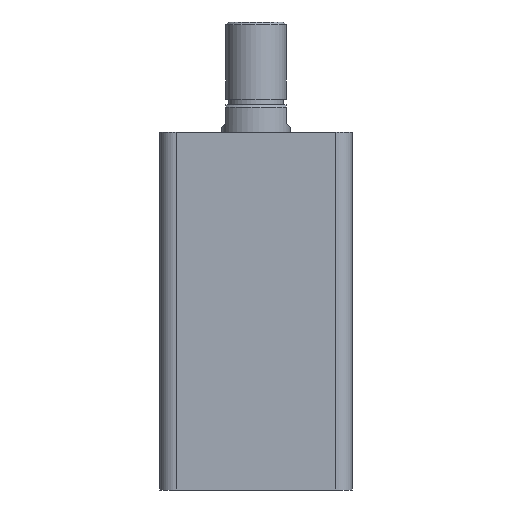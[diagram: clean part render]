
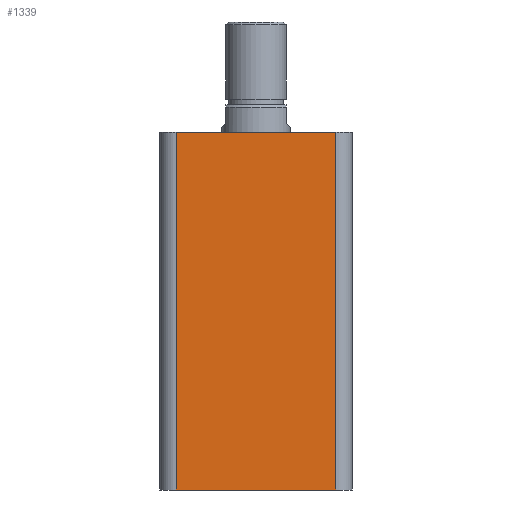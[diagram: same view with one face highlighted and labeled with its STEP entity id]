
A CAD part, front view. The second image highlights one B-rep face of the part: STEP entity #1339.
In plain terms, the highlighted planar face has unit normal (0, -1, 0).
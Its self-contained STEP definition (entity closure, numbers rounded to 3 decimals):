
#131 = VERTEX_POINT ( 'NONE', #2222 ) ;
#137 = VERTEX_POINT ( 'NONE', #2213 ) ;
#231 = ORIENTED_EDGE ( 'NONE', *, *, #1923, .T. ) ;
#247 = ORIENTED_EDGE ( 'NONE', *, *, #1921, .T. ) ;
#249 = ORIENTED_EDGE ( 'NONE', *, *, #1922, .T. ) ;
#256 = ORIENTED_EDGE ( 'NONE', *, *, #1920, .F. ) ;
#480 = EDGE_LOOP ( 'NONE', ( #256, #247, #249, #231 ) ) ;
#737 = CARTESIAN_POINT ( 'NONE',  ( 29., -35., 130. ) ) ;
#789 = CARTESIAN_POINT ( 'NONE',  ( -29., -35., 130. ) ) ;
#983 = DIRECTION ( 'NONE',  ( 0., 0., 1. ) ) ;
#984 = DIRECTION ( 'NONE',  ( 0., 1., 0. ) ) ;
#985 = PLANE ( 'NONE',  #1045 ) ;
#994 = CARTESIAN_POINT ( 'NONE',  ( -35., -35., 130. ) ) ;
#1045 = AXIS2_PLACEMENT_3D ( 'NONE', #994, #984, #983 ) ;
#1339 = ADVANCED_FACE ( 'NONE', ( #1863 ), #985, .F. ) ;
#1384 = VERTEX_POINT ( 'NONE', #789 ) ;
#1424 = VERTEX_POINT ( 'NONE', #737 ) ;
#1547 = LINE ( 'NONE', #2522, #1626 ) ;
#1550 = VECTOR ( 'NONE', #2517, 1000. ) ;
#1556 = VECTOR ( 'NONE', #2516, 1000. ) ;
#1562 = VECTOR ( 'NONE', #2514, 1000. ) ;
#1563 = LINE ( 'NONE', #2515, #1562 ) ;
#1603 = LINE ( 'NONE', #2520, #1556 ) ;
#1610 = LINE ( 'NONE', #2531, #1550 ) ;
#1626 = VECTOR ( 'NONE', #2521, 1000. ) ;
#1863 = FACE_OUTER_BOUND ( 'NONE', #480, .T. ) ;
#1920 = EDGE_CURVE ( 'NONE', #1384, #1424, #1547, .T. ) ;
#1921 = EDGE_CURVE ( 'NONE', #1384, #137, #1603, .T. ) ;
#1922 = EDGE_CURVE ( 'NONE', #137, #131, #1610, .T. ) ;
#1923 = EDGE_CURVE ( 'NONE', #131, #1424, #1563, .T. ) ;
#2213 = CARTESIAN_POINT ( 'NONE',  ( -29., -35., 0. ) ) ;
#2222 = CARTESIAN_POINT ( 'NONE',  ( 29., -35., 0. ) ) ;
#2514 = DIRECTION ( 'NONE',  ( 0., 0., 1. ) ) ;
#2515 = CARTESIAN_POINT ( 'NONE',  ( 29., -35., 130. ) ) ;
#2516 = DIRECTION ( 'NONE',  ( 0., 0., -1. ) ) ;
#2517 = DIRECTION ( 'NONE',  ( 1., 0., 0. ) ) ;
#2520 = CARTESIAN_POINT ( 'NONE',  ( -29., -35., 130. ) ) ;
#2521 = DIRECTION ( 'NONE',  ( 1., 0., 0. ) ) ;
#2522 = CARTESIAN_POINT ( 'NONE',  ( -35., -35., 130. ) ) ;
#2531 = CARTESIAN_POINT ( 'NONE',  ( -35., -35., 0. ) ) ;
